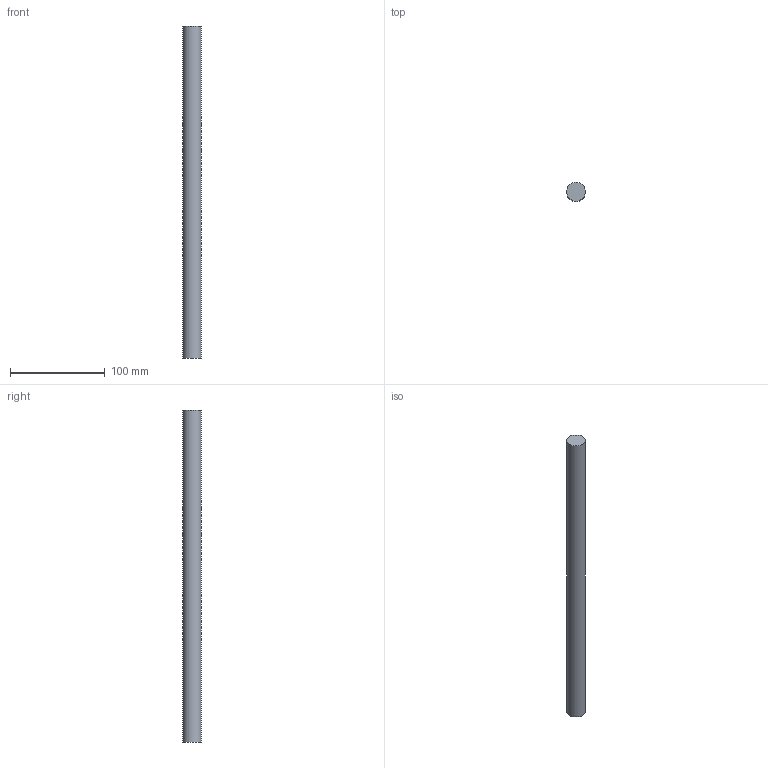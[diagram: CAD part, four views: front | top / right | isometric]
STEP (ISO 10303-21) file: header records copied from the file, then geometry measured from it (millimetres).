
FILE_DESCRIPTION(/* description */ (''),/* implementation_level */ '2;1');
FILE_NAME(/* name */ 'C:\Users\David\Desktop\stepFiles\Profilfuehrung\WF20x350.stp',/* time_stamp */ '2018-06-24T15:49:02+02:00',/* author */ ('David'),/* organization */ (''),/* preprocessor_version */ 'ST-DEVELOPER v17',/* originating_system */ 'Autodesk Inventor 2019',/* authorisation */ '');
FILE_SCHEMA (('AUTOMOTIVE_DESIGN { 1 0 10303 214 3 1 1 }'));
Length unit declared in the file: millimetre
Products named in the file (1): Wellenfuehrung
Bounding box: 20 x 20 x 350 mm (x, y, z)
Volume: 109955.7 mm3; surface area: 22619.5 mm2
Topology: 1 solids, 1 shells, 3 faces, 3 edges, 2 vertices
Faces by surface type: plane 2, cylinder 1
Full cylindrical faces by diameter (mm): 20 x1
Entity records: 98 total; most frequent: DIRECTION 13, CARTESIAN_POINT 9, ORIENTED_EDGE 6, AXIS2_PLACEMENT_3D 6, FACE_OUTER_BOUND 3, EDGE_LOOP 3, EDGE_CURVE 3, ADVANCED_FACE 3
